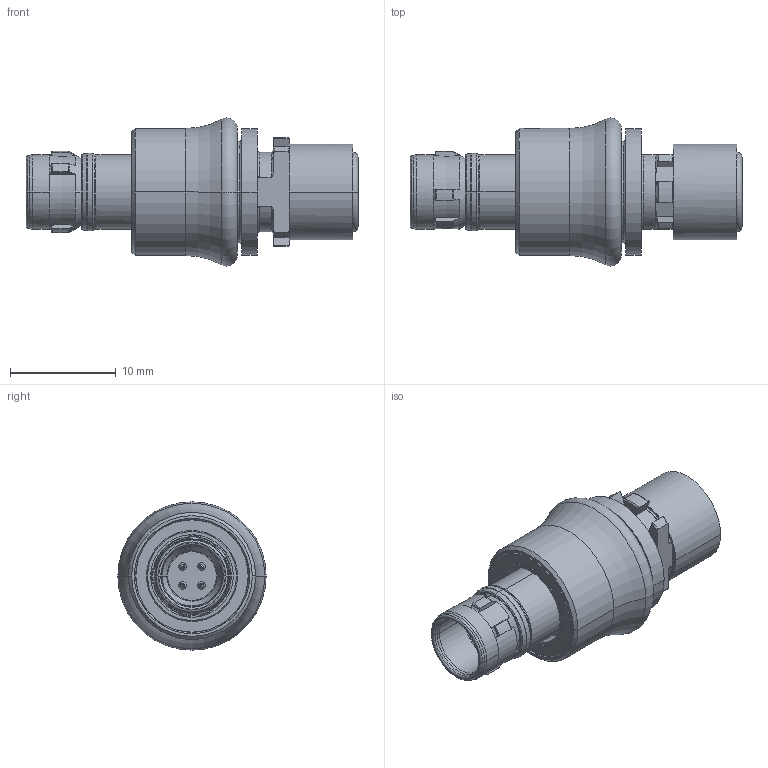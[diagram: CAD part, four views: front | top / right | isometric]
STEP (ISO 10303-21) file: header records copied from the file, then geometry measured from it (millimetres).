
FILE_DESCRIPTION((''),'2;1');
FILE_NAME('00051326-A','2020-10-27T09:23:41',('EUnterhaslberger'),(''),'CREO PARAMETRIC BY PTC INC, 2018300','CREO PARAMETRIC BY PTC INC, 2018300','');
FILE_SCHEMA(('AP242_MANAGED_MODEL_BASED_3D_ENGINEERING_MIM_LF { 1 0 10303 442 1 1 4 }'));
Length unit declared in the file: millimetre
Products named in the file (1): 00051326-A
Bounding box: 31.35 x 14 x 14 mm (x, y, z)
Volume: 1610.1 mm3; surface area: 3520.9 mm2
Topology: 1 solids, 1 shells, 580 faces, 1590 edges, 1016 vertices
Faces by surface type: cylinder 173, plane 151, torus 140, cone 100, bspline 8, sphere 8
Entity records: 23676 total; most frequent: CARTESIAN_POINT 4997, DIRECTION 3236, ORIENTED_EDGE 3148, EDGE_CURVE 1574, AXIS2_PLACEMENT_3D 1376, VERTEX_POINT 1016, CIRCLE 804, EDGE_LOOP 628
